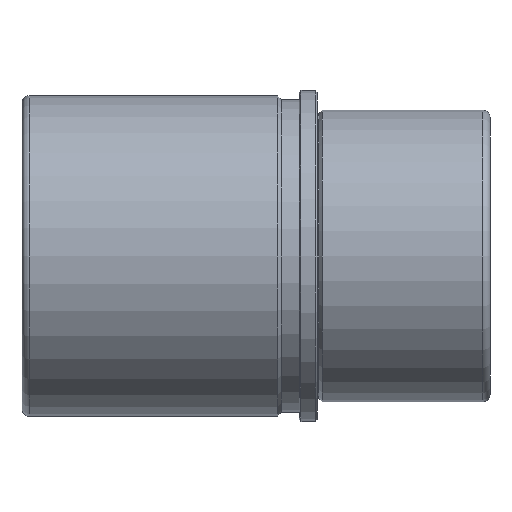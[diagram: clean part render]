
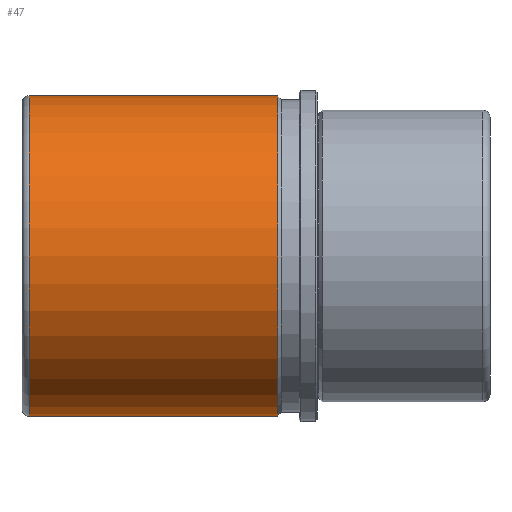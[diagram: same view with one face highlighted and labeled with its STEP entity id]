
A CAD part, front view. The second image highlights one B-rep face of the part: STEP entity #47.
In plain terms, the highlighted cylindrical face has radius 44.5 mm (diameter 89 mm), a full revolution.
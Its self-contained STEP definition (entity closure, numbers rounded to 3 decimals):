
#47 = ADVANCED_FACE( '', ( #108, #109, #110 ), #111, .T. );
#108 = FACE_OUTER_BOUND( '', #201, .T. );
#109 = FACE_BOUND( '', #202, .T. );
#110 = FACE_OUTER_BOUND( '', #203, .T. );
#111 = CYLINDRICAL_SURFACE( '', #204, 44.5 );
#201 = EDGE_LOOP( '', ( #290 ) );
#202 = EDGE_LOOP( '', ( #291 ) );
#203 = EDGE_LOOP( '', ( #292 ) );
#204 = AXIS2_PLACEMENT_3D( '', #293, #294, #295 );
#290 = ORIENTED_EDGE( '', *, *, #415, .T. );
#291 = ORIENTED_EDGE( '', *, *, #416, .T. );
#292 = ORIENTED_EDGE( '', *, *, #417, .F. );
#293 = CARTESIAN_POINT( '', ( 48., 0., 0. ) );
#294 = DIRECTION( '', ( -1., 0., 0. ) );
#295 = DIRECTION( '', ( 0., 0., -1. ) );
#415 = EDGE_CURVE( '', #460, #460, #461, .T. );
#416 = EDGE_CURVE( '', #462, #462, #463, .T. );
#417 = EDGE_CURVE( '', #464, #464, #465, .T. );
#460 = VERTEX_POINT( '', #525 );
#461 = CIRCLE( '', #526, 44.5 );
#462 = VERTEX_POINT( '', #527 );
#463 = B_SPLINE_CURVE_WITH_KNOTS( '', 3, ( #528, #529, #530, #531, #532, #533, #534, #535, #536, #537, #538, #539, #540, #541, #542, #543, #544, #545, #546, #547, #548, #549, #550, #551, #552, #553, #554, #555, #556, #557, #558, #559, #560, #561, #562, #563, #564, #565, #566, #567, #568, #569, #570, #571, #572, #573, #574, #575, #576, #577, #578, #579, #580, #581, #582, #583, #584, #585, #586, #587, #588, #589, #590, #591, #592, #593 ), .UNSPECIFIED., .T., .F., ( 2, 2, 2, 2, 2, 2, 2, 2, 2, 2, 2, 2, 2, 2, 2, 2, 2, 2, 2, 2, 2, 2, 2, 2, 2, 2, 2, 2, 2, 2, 2, 2, 2, 2, 2 ), ( -0.001, 0., 0.001, 0.002, 0.002, 0.003, 0.004, 0.005, 0.006, 0.007, 0.007, 0.008, 0.009, 0.01, 0.011, 0.011, 0.012, 0.013, 0.014, 0.015, 0.016, 0.016, 0.017, 0.018, 0.019, 0.02, 0.02, 0.021, 0.022, 0.023, 0.024, 0.025, 0.025, 0.026, 0.027 ), .UNSPECIFIED. );
#464 = VERTEX_POINT( '', #594 );
#465 = CIRCLE( '', #595, 44.5 );
#525 = CARTESIAN_POINT( '', ( -80., 0., -44.5 ) );
#526 = AXIS2_PLACEMENT_3D( '', #720, #721, #722 );
#527 = CARTESIAN_POINT( '', ( -18., 44.302, -4.188 ) );
#528 = CARTESIAN_POINT( '', ( -18.277, 44.302, -4.188 ) );
#529 = CARTESIAN_POINT( '', ( -17.723, 44.302, -4.188 ) );
#530 = CARTESIAN_POINT( '', ( -17.451, 44.305, -4.161 ) );
#531 = CARTESIAN_POINT( '', ( -16.916, 44.315, -4.054 ) );
#532 = CARTESIAN_POINT( '', ( -16.649, 44.322, -3.974 ) );
#533 = CARTESIAN_POINT( '', ( -16.142, 44.341, -3.763 ) );
#534 = CARTESIAN_POINT( '', ( -15.902, 44.352, -3.635 ) );
#535 = CARTESIAN_POINT( '', ( -15.447, 44.375, -3.331 ) );
#536 = CARTESIAN_POINT( '', ( -15.231, 44.388, -3.154 ) );
#537 = CARTESIAN_POINT( '', ( -14.845, 44.414, -2.768 ) );
#538 = CARTESIAN_POINT( '', ( -14.672, 44.427, -2.557 ) );
#539 = CARTESIAN_POINT( '', ( -14.366, 44.451, -2.1 ) );
#540 = CARTESIAN_POINT( '', ( -14.236, 44.462, -1.856 ) );
#541 = CARTESIAN_POINT( '', ( -14.027, 44.48, -1.352 ) );
#542 = CARTESIAN_POINT( '', ( -13.946, 44.488, -1.088 ) );
#543 = CARTESIAN_POINT( '', ( -13.839, 44.497, -0.547 ) );
#544 = CARTESIAN_POINT( '', ( -13.812, 44.5, -0.276 ) );
#545 = CARTESIAN_POINT( '', ( -13.812, 44.5, 0.271 ) );
#546 = CARTESIAN_POINT( '', ( -13.839, 44.497, 0.549 ) );
#547 = CARTESIAN_POINT( '', ( -13.946, 44.488, 1.086 ) );
#548 = CARTESIAN_POINT( '', ( -14.025, 44.48, 1.347 ) );
#549 = CARTESIAN_POINT( '', ( -14.235, 44.462, 1.854 ) );
#550 = CARTESIAN_POINT( '', ( -14.366, 44.451, 2.099 ) );
#551 = CARTESIAN_POINT( '', ( -14.669, 44.427, 2.553 ) );
#552 = CARTESIAN_POINT( '', ( -14.842, 44.414, 2.764 ) );
#553 = CARTESIAN_POINT( '', ( -15.233, 44.388, 3.156 ) );
#554 = CARTESIAN_POINT( '', ( -15.444, 44.376, 3.329 ) );
#555 = CARTESIAN_POINT( '', ( -15.898, 44.352, 3.632 ) );
#556 = CARTESIAN_POINT( '', ( -16.142, 44.341, 3.763 ) );
#557 = CARTESIAN_POINT( '', ( -16.65, 44.322, 3.974 ) );
#558 = CARTESIAN_POINT( '', ( -16.911, 44.315, 4.053 ) );
#559 = CARTESIAN_POINT( '', ( -17.447, 44.305, 4.16 ) );
#560 = CARTESIAN_POINT( '', ( -17.725, 44.302, 4.188 ) );
#561 = CARTESIAN_POINT( '', ( -18.272, 44.302, 4.188 ) );
#562 = CARTESIAN_POINT( '', ( -18.544, 44.305, 4.162 ) );
#563 = CARTESIAN_POINT( '', ( -19.084, 44.315, 4.055 ) );
#564 = CARTESIAN_POINT( '', ( -19.349, 44.322, 3.974 ) );
#565 = CARTESIAN_POINT( '', ( -19.853, 44.34, 3.766 ) );
#566 = CARTESIAN_POINT( '', ( -20.096, 44.351, 3.636 ) );
#567 = CARTESIAN_POINT( '', ( -20.554, 44.375, 3.33 ) );
#568 = CARTESIAN_POINT( '', ( -20.765, 44.388, 3.157 ) );
#569 = CARTESIAN_POINT( '', ( -21.152, 44.414, 2.771 ) );
#570 = CARTESIAN_POINT( '', ( -21.329, 44.427, 2.556 ) );
#571 = CARTESIAN_POINT( '', ( -21.633, 44.451, 2.101 ) );
#572 = CARTESIAN_POINT( '', ( -21.762, 44.462, 1.861 ) );
#573 = CARTESIAN_POINT( '', ( -21.972, 44.48, 1.354 ) );
#574 = CARTESIAN_POINT( '', ( -22.053, 44.488, 1.088 ) );
#575 = CARTESIAN_POINT( '', ( -22.16, 44.497, 0.553 ) );
#576 = CARTESIAN_POINT( '', ( -22.188, 44.5, 0.281 ) );
#577 = CARTESIAN_POINT( '', ( -22.188, 44.5, -0.273 ) );
#578 = CARTESIAN_POINT( '', ( -22.161, 44.497, -0.545 ) );
#579 = CARTESIAN_POINT( '', ( -22.055, 44.488, -1.081 ) );
#580 = CARTESIAN_POINT( '', ( -21.975, 44.48, -1.347 ) );
#581 = CARTESIAN_POINT( '', ( -21.765, 44.462, -1.854 ) );
#582 = CARTESIAN_POINT( '', ( -21.637, 44.451, -2.095 ) );
#583 = CARTESIAN_POINT( '', ( -21.333, 44.427, -2.55 ) );
#584 = CARTESIAN_POINT( '', ( -21.157, 44.414, -2.766 ) );
#585 = CARTESIAN_POINT( '', ( -20.771, 44.389, -3.152 ) );
#586 = CARTESIAN_POINT( '', ( -20.56, 44.376, -3.326 ) );
#587 = CARTESIAN_POINT( '', ( -20.103, 44.352, -3.632 ) );
#588 = CARTESIAN_POINT( '', ( -19.859, 44.341, -3.763 ) );
#589 = CARTESIAN_POINT( '', ( -19.356, 44.323, -3.972 ) );
#590 = CARTESIAN_POINT( '', ( -19.092, 44.315, -4.052 ) );
#591 = CARTESIAN_POINT( '', ( -18.551, 44.305, -4.161 ) );
#592 = CARTESIAN_POINT( '', ( -18.277, 44.302, -4.188 ) );
#593 = CARTESIAN_POINT( '', ( -17.723, 44.302, -4.188 ) );
#594 = CARTESIAN_POINT( '', ( -11., 0., -44.5 ) );
#595 = AXIS2_PLACEMENT_3D( '', #723, #724, #725 );
#720 = CARTESIAN_POINT( '', ( -80., 0., 0. ) );
#721 = DIRECTION( '', ( 1., 0., 0. ) );
#722 = DIRECTION( '', ( 0., 0., -1. ) );
#723 = CARTESIAN_POINT( '', ( -11., 0., 0. ) );
#724 = DIRECTION( '', ( 1., 0., 0. ) );
#725 = DIRECTION( '', ( 0., 0., -1. ) );
